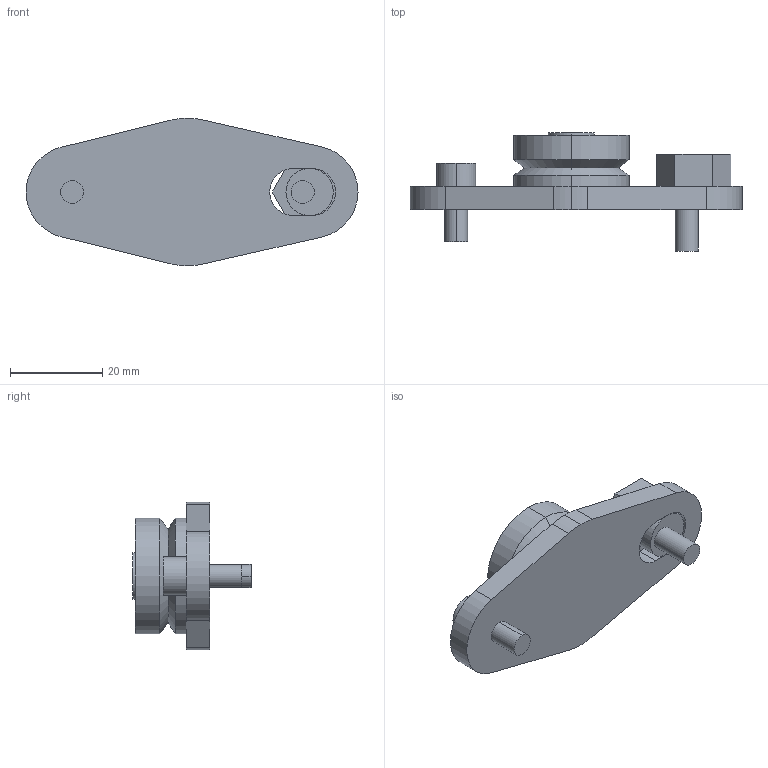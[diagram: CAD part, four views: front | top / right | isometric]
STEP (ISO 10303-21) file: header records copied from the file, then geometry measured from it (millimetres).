
FILE_DESCRIPTION(('STEP AP203'),'1');
FILE_NAME('bhj_25_e.stp','2020-10-26T14:19:02',('TraceParts'),('TraceParts S.A.'),'Spatial InterOp 3D',' ',' ');
FILE_SCHEMA(('CONFIG_CONTROL_DESIGN'));
Length unit declared in the file: millimetre
Products named in the file (1): 1
Bounding box: 72 x 25.6 x 32 mm (x, y, z)
Volume: 15171.3 mm3; surface area: 6583.4 mm2
Topology: 2 solids, 2 shells, 72 faces, 168 edges, 110 vertices
Faces by surface type: plane 44, cylinder 24, cone 4
Entity records: 2106 total; most frequent: DIRECTION 366, CARTESIAN_POINT 352, ORIENTED_EDGE 336, EDGE_CURVE 168, AXIS2_PLACEMENT_3D 124, LINE 118, VECTOR 118, VERTEX_POINT 110
